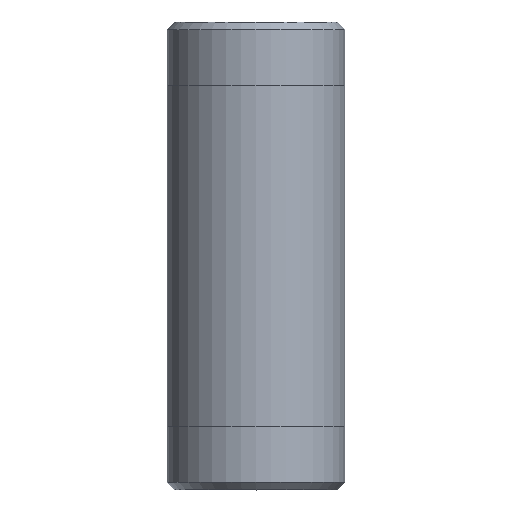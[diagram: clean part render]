
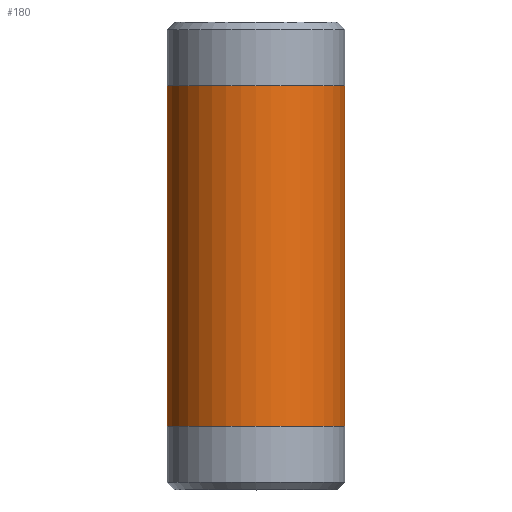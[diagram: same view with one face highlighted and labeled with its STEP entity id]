
A CAD part, top view. The second image highlights one B-rep face of the part: STEP entity #180.
In plain terms, the highlighted cylindrical face has radius 24.13 mm (diameter 48.26 mm), a full revolution.
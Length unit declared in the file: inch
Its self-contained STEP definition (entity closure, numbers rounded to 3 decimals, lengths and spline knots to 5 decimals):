
#25=CYLINDRICAL_SURFACE('',#220,0.95);
#34=FACE_OUTER_BOUND('',#47,.T.);
#47=EDGE_LOOP('',(#155,#156,#157,#158,#159,#160));
#55=LINE('',#338,#61);
#61=VECTOR('',#283,0.95);
#77=CIRCLE('',#218,0.95);
#78=CIRCLE('',#219,0.95);
#79=CIRCLE('',#221,0.95);
#80=CIRCLE('',#222,0.95);
#95=VERTEX_POINT('',#329);
#96=VERTEX_POINT('',#330);
#97=VERTEX_POINT('',#334);
#98=VERTEX_POINT('',#335);
#117=EDGE_CURVE('',#95,#96,#77,.T.);
#118=EDGE_CURVE('',#96,#95,#78,.T.);
#119=EDGE_CURVE('',#97,#98,#79,.T.);
#120=EDGE_CURVE('',#98,#97,#80,.T.);
#121=EDGE_CURVE('',#98,#96,#55,.T.);
#155=ORIENTED_EDGE('',*,*,#119,.F.);
#156=ORIENTED_EDGE('',*,*,#120,.F.);
#157=ORIENTED_EDGE('',*,*,#121,.T.);
#158=ORIENTED_EDGE('',*,*,#118,.T.);
#159=ORIENTED_EDGE('',*,*,#117,.T.);
#160=ORIENTED_EDGE('',*,*,#121,.F.);
#180=ADVANCED_FACE('',(#34),#25,.T.);
#218=AXIS2_PLACEMENT_3D('',#331,#273,#274);
#219=AXIS2_PLACEMENT_3D('',#332,#275,#276);
#220=AXIS2_PLACEMENT_3D('',#333,#277,#278);
#221=AXIS2_PLACEMENT_3D('',#336,#279,#280);
#222=AXIS2_PLACEMENT_3D('',#337,#281,#282);
#273=DIRECTION('center_axis',(0.,-1.,0.));
#274=DIRECTION('ref_axis',(1.,0.,0.));
#275=DIRECTION('center_axis',(0.,-1.,0.));
#276=DIRECTION('ref_axis',(1.,0.,0.));
#277=DIRECTION('center_axis',(0.,-1.,0.));
#278=DIRECTION('ref_axis',(0.,0.,-1.));
#279=DIRECTION('center_axis',(0.,-1.,0.));
#280=DIRECTION('ref_axis',(1.,0.,0.));
#281=DIRECTION('center_axis',(0.,-1.,0.));
#282=DIRECTION('ref_axis',(1.,0.,0.));
#283=DIRECTION('',(0.,1.,0.));
#329=CARTESIAN_POINT('',(0.,4.319,-0.95));
#330=CARTESIAN_POINT('',(0.,4.319,0.95));
#331=CARTESIAN_POINT('Origin',(0.,4.319,0.));
#332=CARTESIAN_POINT('Origin',(0.,4.319,0.));
#333=CARTESIAN_POINT('Origin',(0.,2.5,0.));
#334=CARTESIAN_POINT('',(0.,0.681,-0.95));
#335=CARTESIAN_POINT('',(0.,0.681,0.95));
#336=CARTESIAN_POINT('Origin',(0.,0.681,0.));
#337=CARTESIAN_POINT('Origin',(0.,0.681,0.));
#338=CARTESIAN_POINT('',(0.,2.5,0.95));
